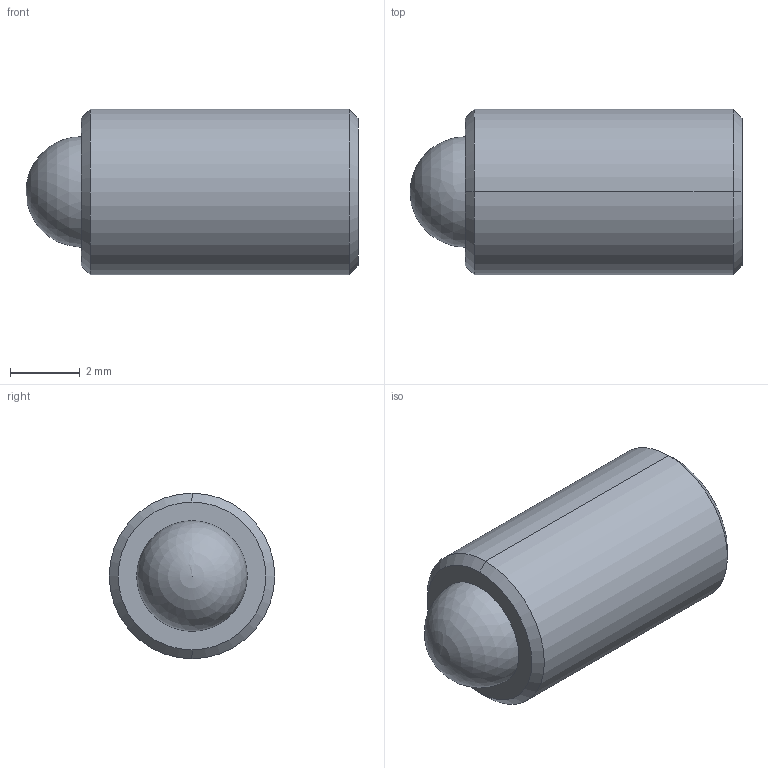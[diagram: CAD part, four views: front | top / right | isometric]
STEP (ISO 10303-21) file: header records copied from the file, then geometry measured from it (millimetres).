
FILE_DESCRIPTION (( 'STEP AP214' ), '1' );
FILE_NAME ('TS187-100-375.STEP', '2013-02-11T16:15:38', ( 'workpc' ), ( 'Microsoft' ), 'SwSTEP 2.0', 'SolidWorks 2013', '' );
FILE_SCHEMA (( 'AUTOMOTIVE_DESIGN' ));
Length unit declared in the file: inch
Products named in the file (1): TS187-100-375
Bounding box: 9.53 x 4.75 x 4.75 mm (x, y, z)
Volume: 136.1 mm3; surface area: 212.5 mm2
Topology: 2 solids, 2 shells, 20 faces, 45 edges, 29 vertices
Faces by surface type: plane 10, cylinder 4, cone 4, sphere 2
Entity records: 599 total; most frequent: DIRECTION 96, CARTESIAN_POINT 87, ORIENTED_EDGE 80, EDGE_CURVE 40, AXIS2_PLACEMENT_3D 35, VERTEX_POINT 26, LINE 26, VECTOR 26
